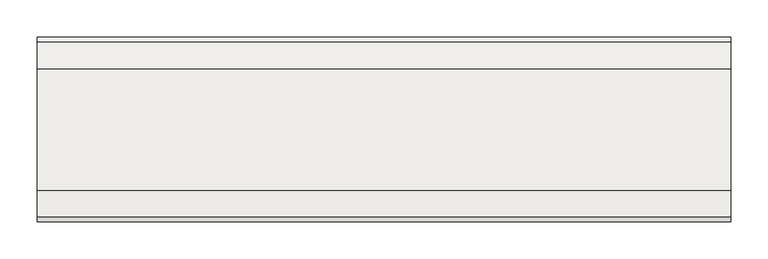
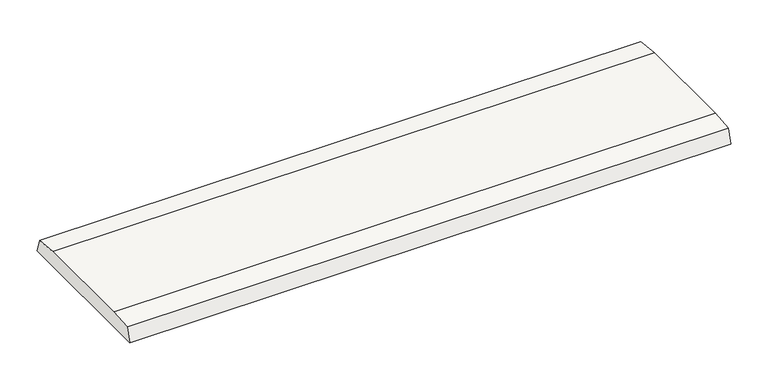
"""IFC4 building model written with IfcOpenShell, lengths in millimetres: slab geometry, ROSA GRES_I25_Inclinación : Pieza I25_Tresor_Java_Anti-Slip."""

from ifc_helpers import new_model, si_unit, point, frame, frame_2d, origin, place, context, project, spatial, polyline, circle_curve, trimmed, segment, composite_curve, outline, extrude, source, transform, mapped, element, save


def slab_69884c0c(model_context):
    return source(origin(), model_context, "Body", "SweptSolid", [
        extrude(outline(composite_curve([segment(polyline([(242.0848264, 22.0203494), (248.9615625, 0.0), (0.0, 0.0), (6.8503894, 21.9708993)]), True, "CONTINUOUS"), segment(trimmed(circle_curve(frame_2d((86.2847076, -695.1998883)), 721.556477), [point((6.8503894, 21.9708993))], [point((42.7380732, 25.0413492))], False, "CARTESIAN"), True, "CONTINUOUS"), segment(polyline([(42.7380732, 25.0413492), (206.6448784, 25.0413492)]), True, "CONTINUOUS"), segment(trimmed(circle_curve(frame_2d((163.0982439, -695.1998883)), 721.556477), [point((206.6448784, 25.0413492))], [point((242.0848264, 22.0203494))], False, "CARTESIAN"), True, "CONTINUOUS")], self_intersect=False)), frame((0.0, 0.0, 0.0), z_axis=(1.0, 0.0, 0.0), x_axis=(0.0, 1.0, 0.0)), (0.0, 0.0, 1.0), 935.0),
    ])


if __name__ == "__main__":
    model = new_model("IFC4")
    model_context = context("Model", 3, world=origin())
    ifc_project = project(units=[si_unit("LENGTHUNIT", "METRE", prefix="MILLI")], contexts=[model_context])
    site = spatial("IfcSite", under=ifc_project)
    building = spatial("IfcBuilding", under=site)
    placement = place(None, origin())
    slab_shape = slab_69884c0c(model_context)
    element("IfcSlab", 1, ObjectType="ROSA GRES_I25_Inclinación : Pieza I25_Tresor_Java_Anti-Slip", at=placement, inside=building, context=model_context, shape_type="MappedRepresentation", body=[
        mapped(slab_shape, transform((0.0, 0.0, 0.0), x_axis=(1.0, 0.0, 0.0), y_axis=(0.0, 1.0, 0.0), z_axis=(0.0, 0.0, 1.0))),
    ])
    save(model, "model.ifc")
